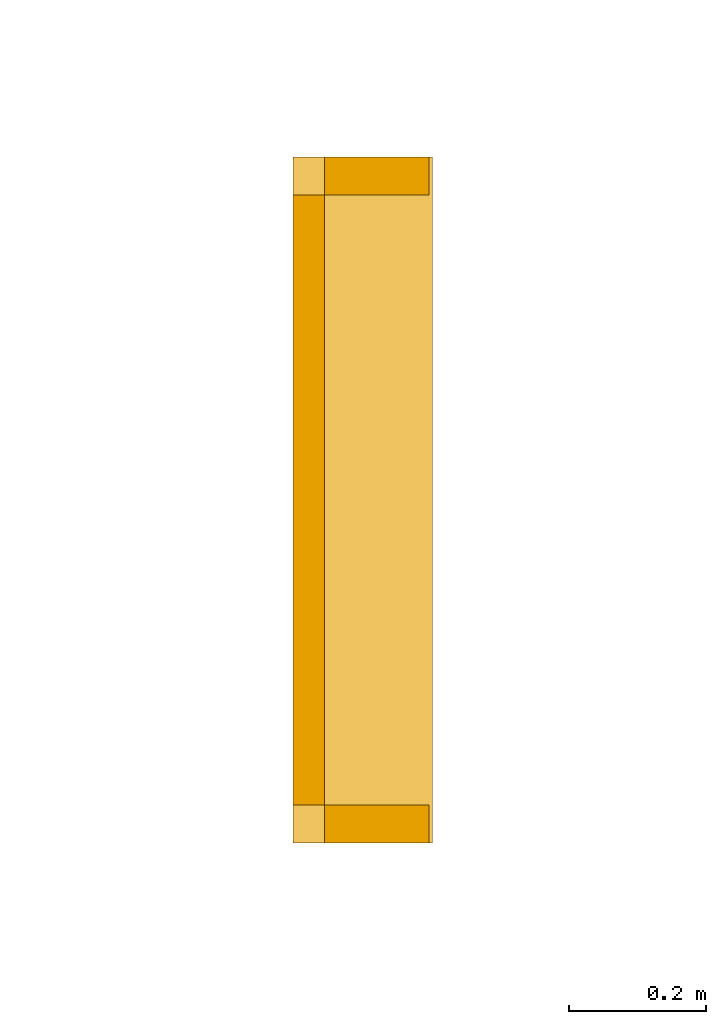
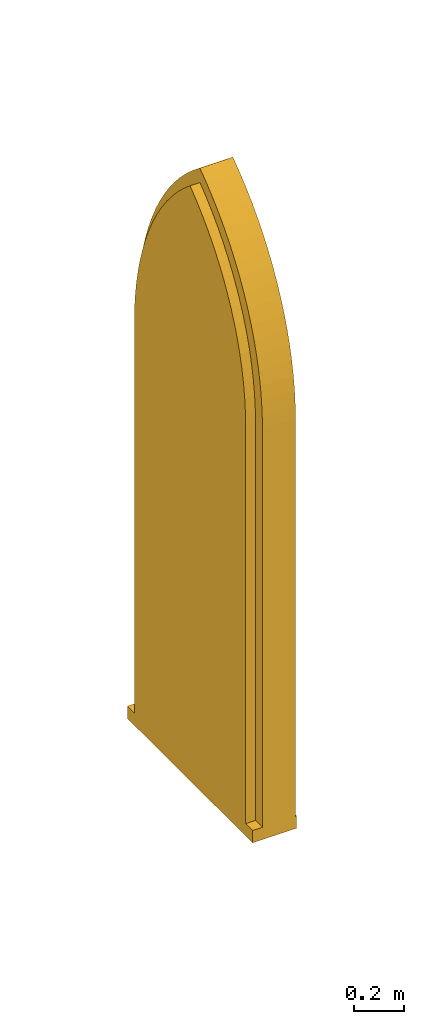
# One storey, part 4 of 6: 1 door.
"""IFC2X3 building model written with IfcOpenShell, lengths in metres."""

from ifc_helpers import new_model, entity, si_unit, converted_unit, derived_unit, direction, frame, frame_2d, origin, place, context, subcontext, project, spatial, polyline, circle_curve, parameter, trimmed, segment, composite_curve, rectangle, outline, extrude, source, transform, mapped, material, material_list, type_object, type_shapes, element, save


model = new_model("IFC2X3")

# Units and contexts
model_context = context("Model", 3, precision=1e-05, world=origin(), true_north=direction((6.12303176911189e-17, 1.0)))
plan_context = context("Plan", 3, precision=1e-05, world=origin(), true_north=direction((6.12303176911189e-17, 1.0)))
body_context = subcontext(model_context, "Body", "Model", "MODEL_VIEW")
ifc_project = project(units=[si_unit("LENGTHUNIT", "METRE"), si_unit("AREAUNIT", "SQUARE_METRE"), si_unit("VOLUMEUNIT", "CUBIC_METRE"), converted_unit("PLANEANGLEUNIT", "DEGREE", entity("IfcRatioMeasure", 0.0174532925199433), si_unit("PLANEANGLEUNIT", "RADIAN"), dimensions=[0, 0, 0, 0, 0, 0, 0]), si_unit("MASSUNIT", "GRAM", prefix="KILO"), derived_unit("MASSDENSITYUNIT", [(si_unit("MASSUNIT", "GRAM", prefix="KILO"), 1), (si_unit("LENGTHUNIT", "METRE"), -3)]), derived_unit("MOMENTOFINERTIAUNIT", [(si_unit("LENGTHUNIT", "METRE"), 4)]), si_unit("TIMEUNIT", "SECOND"), si_unit("FREQUENCYUNIT", "HERTZ"), si_unit("THERMODYNAMICTEMPERATUREUNIT", "DEGREE_CELSIUS"), derived_unit("THERMALTRANSMITTANCEUNIT", [(si_unit("MASSUNIT", "GRAM", prefix="KILO"), 1), (si_unit("THERMODYNAMICTEMPERATUREUNIT", "KELVIN"), -1), (si_unit("TIMEUNIT", "SECOND"), -3)]), derived_unit("VOLUMETRICFLOWRATEUNIT", [(si_unit("LENGTHUNIT", "METRE"), 3), (si_unit("TIMEUNIT", "SECOND"), -1)]), derived_unit("MASSFLOWRATEUNIT", [(si_unit("MASSUNIT", "GRAM", prefix="KILO"), 1), (si_unit("TIMEUNIT", "SECOND"), -1)]), derived_unit("ROTATIONALFREQUENCYUNIT", [(si_unit("TIMEUNIT", "SECOND"), -1)]), si_unit("ELECTRICCURRENTUNIT", "AMPERE"), si_unit("ELECTRICVOLTAGEUNIT", "VOLT"), si_unit("POWERUNIT", "WATT"), si_unit("FORCEUNIT", "NEWTON", prefix="KILO"), si_unit("ILLUMINANCEUNIT", "LUX"), si_unit("LUMINOUSFLUXUNIT", "LUMEN"), si_unit("LUMINOUSINTENSITYUNIT", "CANDELA"), derived_unit("USERDEFINED", [(si_unit("MASSUNIT", "GRAM", prefix="KILO"), -1), (si_unit("LENGTHUNIT", "METRE"), -2), (si_unit("TIMEUNIT", "SECOND"), 3), (si_unit("LUMINOUSFLUXUNIT", "LUMEN"), 1)]), derived_unit("SOUNDPOWERUNIT", [(si_unit("MASSUNIT", "GRAM", prefix="KILO"), 1), (si_unit("LENGTHUNIT", "METRE"), 2), (si_unit("TIMEUNIT", "SECOND"), -3)]), derived_unit("SOUNDPRESSUREUNIT", [(si_unit("MASSUNIT", "GRAM", prefix="KILO"), 1), (si_unit("LENGTHUNIT", "METRE"), -1), (si_unit("TIMEUNIT", "SECOND"), -2)]), derived_unit("LINEARVELOCITYUNIT", [(si_unit("LENGTHUNIT", "METRE"), 1), (si_unit("TIMEUNIT", "SECOND"), -1)]), si_unit("PRESSUREUNIT", "PASCAL"), derived_unit("USERDEFINED", [(si_unit("LENGTHUNIT", "METRE"), -2), (si_unit("MASSUNIT", "GRAM", prefix="KILO"), 1), (si_unit("TIMEUNIT", "SECOND"), -2)]), derived_unit("LINEARFORCEUNIT", [(si_unit("MASSUNIT", "GRAM", prefix="KILO"), 1), (si_unit("LENGTHUNIT", "METRE"), 1), (si_unit("TIMEUNIT", "SECOND"), -2), (si_unit("LENGTHUNIT", "METRE"), -1)]), derived_unit("PLANARFORCEUNIT", [(si_unit("MASSUNIT", "GRAM", prefix="KILO"), 1), (si_unit("LENGTHUNIT", "METRE"), 1), (si_unit("TIMEUNIT", "SECOND"), -2), (si_unit("LENGTHUNIT", "METRE"), -2)])], contexts=[model_context, plan_context])

# Site, building, storey
site_placement = place(None, frame((-11.0823275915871, 23.8300534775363, 0.0)))
site = spatial("IfcSite", under=ifc_project, at=site_placement, Name="Default", CompositionType="ELEMENT")
building_placement = place(site_placement, origin())
building = spatial("IfcBuilding", under=site, at=building_placement, Name="Englische Kirche", CompositionType="ELEMENT")
storey_placement = place(building_placement, origin())
storey = spatial("IfcBuildingStorey", under=building, at=storey_placement, Name="Ebene 0 Nave FFL Phase 1 1864", CompositionType="ELEMENT", Elevation=0.0)

# Door
ifc_material = material(Name="Holz - generisch 140-100-70")
ifc_material_list_1 = material_list([ifc_material, ifc_material, ifc_material])
ifc_material_list_2 = material_list([ifc_material, ifc_material, ifc_material])
door_style = type_object("IfcDoorStyle", Name="Arched_Doorway:Arched_Door_Store", ConstructionType="NOTDEFINED", OperationType="NOTDEFINED", ParameterTakesPrecedence=False, Sizeable=False, material=ifc_material_list_2)
shared_shape = source(origin(), body_context, "Body", "SweptSolid", [
    extrude(rectangle(XDim=1.0, YDim=0.2032, at=frame_2d((3.05311331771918e-16, 0.0), x_axis=(1.0, 0.0))), frame((0.499999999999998, 0.0600000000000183, 0.0)), (0.0, 0.0, 1.0), 0.0599999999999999),
    extrude(outline(composite_curve([segment(polyline([(-0.603187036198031, -0.44419508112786), (1.336812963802, -0.44419508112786)]), True, "CONTINUOUS"), segment(polyline([(1.336812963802, -0.44419508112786), (1.336812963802, 0.444660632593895)]), True, "CONTINUOUS"), segment(polyline([(1.336812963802, 0.444660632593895), (-0.568792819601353, 0.444660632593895)]), True, "CONTINUOUS"), segment(trimmed(circle_curve(frame_2d((-0.568792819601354, -0.754606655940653), x_axis=(0.0, -1.0)), 1.19926728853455), [parameter(180.0)], [parameter(231.064385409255)], True, "PARAMETER"), True, "CONTINUOUS"), segment(trimmed(circle_curve(frame_2d((-0.60318703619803, 0.687987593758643), x_axis=(0.0, -1.0)), 1.1321826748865), [parameter(307.480199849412)], [parameter(1.01777749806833e-13)], True, "PARAMETER"), True, "CONTINUOUS")], self_intersect=False)), frame((0.500232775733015, -0.0416000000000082, 1.39681296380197), z_axis=(0.0, 1.0, 0.0), x_axis=(0.0, 0.0, -1.0)), (0.0, 0.0, 1.0), 0.0454000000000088),
    extrude(outline(composite_curve([segment(polyline([(-0.561818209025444, 0.444568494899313), (1.34378757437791, 0.444568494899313)]), True, "CONTINUOUS"), segment(polyline([(1.34378757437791, 0.444568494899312), (1.34378757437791, 0.500140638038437)]), True, "CONTINUOUS"), segment(polyline([(1.34378757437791, 0.500140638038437), (-0.561818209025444, 0.500140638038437)]), True, "CONTINUOUS"), segment(trimmed(circle_curve(frame_2d((-0.561818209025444, -0.754698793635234), x_axis=(-0.798986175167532, 0.601349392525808)), 1.25483943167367), [parameter(306.966602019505)], [parameter(5.08888749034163e-14)], True, "PARAMETER"), True, "CONTINUOUS"), segment(trimmed(circle_curve(frame_2d((-0.596212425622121, 0.687895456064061), x_axis=(0.0, -1.0)), 1.18775481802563), [parameter(305.397237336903)], [parameter(0.0)], True, "PARAMETER"), True, "CONTINUOUS"), segment(polyline([(-0.596212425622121, -0.499859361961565), (1.34378757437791, -0.499859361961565)]), True, "CONTINUOUS"), segment(polyline([(1.34378757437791, -0.499859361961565), (1.34378757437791, -0.444287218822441)]), True, "CONTINUOUS"), segment(polyline([(1.34378757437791, -0.444287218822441), (-0.596212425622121, -0.444287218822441)]), True, "CONTINUOUS"), segment(trimmed(circle_curve(frame_2d((-0.596212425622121, 0.687895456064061), x_axis=(0.0, -1.0)), 1.1321826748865), [parameter(307.480199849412)], [parameter(0.0)], True, "PARAMETER"), False, "CONTINUOUS"), segment(trimmed(circle_curve(frame_2d((-0.561818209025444, -0.754698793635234), x_axis=(-0.798986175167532, 0.601349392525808)), 1.19926728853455), [parameter(306.966602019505)], [parameter(358.030987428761)], True, "PARAMETER"), False, "CONTINUOUS")], self_intersect=False)), frame((0.500140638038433, 0.00380000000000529, 1.40378757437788), z_axis=(0.0, 1.0, 0.0), x_axis=(0.0, 0.0, -1.0)), (0.0, 0.0, 1.0), 0.1524),
])
type_shapes(door_style, [shared_shape])
placement_1 = place(storey_placement, frame((20.674524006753, -0.66501901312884, 0.0), z_axis=(0.0, 0.0, 1.0), x_axis=(0.0, 1.0, 0.0)))
placement_2 = place(placement_1, frame((2.24093154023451, 0.0599999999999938, 0.0)))
door_placement = place(placement_2, frame((0.0, 0.0, 0.0), z_axis=(0.0, 0.0, 1.0), x_axis=(-1.0, 0.0, 0.0)))
element("IfcDoor", 1, at=door_placement, inside=storey, type_object=door_style, material=ifc_material_list_1, Name="Arched_Doorway:Arched_Door_Store", ObjectType="Arched_Doorway:Arched_Door_Store", OverallHeight=2.96820514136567, OverallWidth=0.999999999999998, context=body_context, shape_type="MappedRepresentation", body=[
    mapped(shared_shape, transform((0.0, 0.0, 0.0), scale=1.0)),
])

save(model, "model.ifc")
